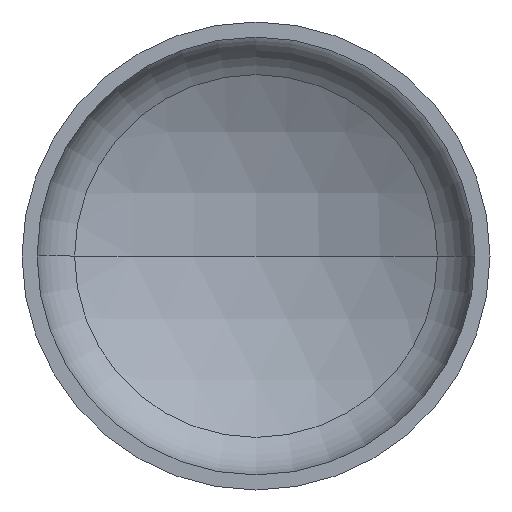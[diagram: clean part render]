
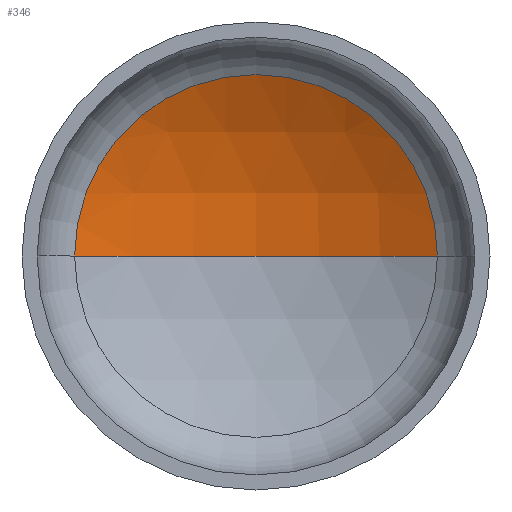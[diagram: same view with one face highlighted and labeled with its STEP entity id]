
A CAD part, front view. The second image highlights one B-rep face of the part: STEP entity #346.
In plain terms, the highlighted spherical face has radius 720 mm.
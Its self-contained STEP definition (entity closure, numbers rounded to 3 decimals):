
#8 = CARTESIAN_POINT ( 'NONE',  ( 0., -417.384, 0. ) ) ;
#10 = AXIS2_PLACEMENT_3D ( 'NONE', #400, #131, #48 ) ;
#36 = AXIS2_PLACEMENT_3D ( 'NONE', #8, #53, #393 ) ;
#38 = AXIS2_PLACEMENT_3D ( 'NONE', #204, #208, #187 ) ;
#43 = EDGE_LOOP ( 'NONE', ( #390, #56, #174 ) ) ;
#45 = AXIS2_PLACEMENT_3D ( 'NONE', #286, #176, #195 ) ;
#48 = DIRECTION ( 'NONE',  ( -1., 0., 0. ) ) ;
#53 = DIRECTION ( 'NONE',  ( 0., 0., 1. ) ) ;
#56 = ORIENTED_EDGE ( 'NONE', *, *, #97, .T. ) ;
#85 = EDGE_CURVE ( 'NONE', #162, #124, #255, .T. ) ;
#97 = EDGE_CURVE ( 'NONE', #170, #162, #200, .T. ) ;
#112 = EDGE_CURVE ( 'NONE', #170, #124, #365, .T. ) ;
#124 = VERTEX_POINT ( 'NONE', #360 ) ;
#131 = DIRECTION ( 'NONE',  ( 0., 0., -1. ) ) ;
#162 = VERTEX_POINT ( 'NONE', #260 ) ;
#170 = VERTEX_POINT ( 'NONE', #274 ) ;
#174 = ORIENTED_EDGE ( 'NONE', *, *, #85, .T. ) ;
#176 = DIRECTION ( 'NONE',  ( 0., -1., 0. ) ) ;
#187 = DIRECTION ( 'NONE',  ( -1., 0., 0. ) ) ;
#195 = DIRECTION ( 'NONE',  ( 1., 0., 0. ) ) ;
#200 = CIRCLE ( 'NONE', #38, 720. ) ;
#204 = CARTESIAN_POINT ( 'NONE',  ( 0., -417.384, 0. ) ) ;
#208 = DIRECTION ( 'NONE',  ( 0., 0., -1. ) ) ;
#255 = CIRCLE ( 'NONE', #45, 348.828 ) ;
#260 = CARTESIAN_POINT ( 'NONE',  ( 348.828, 212.472, 0. ) ) ;
#274 = CARTESIAN_POINT ( 'NONE',  ( 0., 302.616, 0. ) ) ;
#286 = CARTESIAN_POINT ( 'NONE',  ( 0., 212.472, 0. ) ) ;
#290 = FACE_OUTER_BOUND ( 'NONE', #43, .T. ) ;
#339 = SPHERICAL_SURFACE ( 'NONE', #10, 720. ) ;
#346 = ADVANCED_FACE ( 'NONE', ( #290 ), #339, .F. ) ;
#360 = CARTESIAN_POINT ( 'NONE',  ( -348.828, 212.472, 0. ) ) ;
#365 = CIRCLE ( 'NONE', #36, 720. ) ;
#390 = ORIENTED_EDGE ( 'NONE', *, *, #112, .F. ) ;
#393 = DIRECTION ( 'NONE',  ( 1., 0., 0. ) ) ;
#400 = CARTESIAN_POINT ( 'NONE',  ( 0., -417.384, 0. ) ) ;
